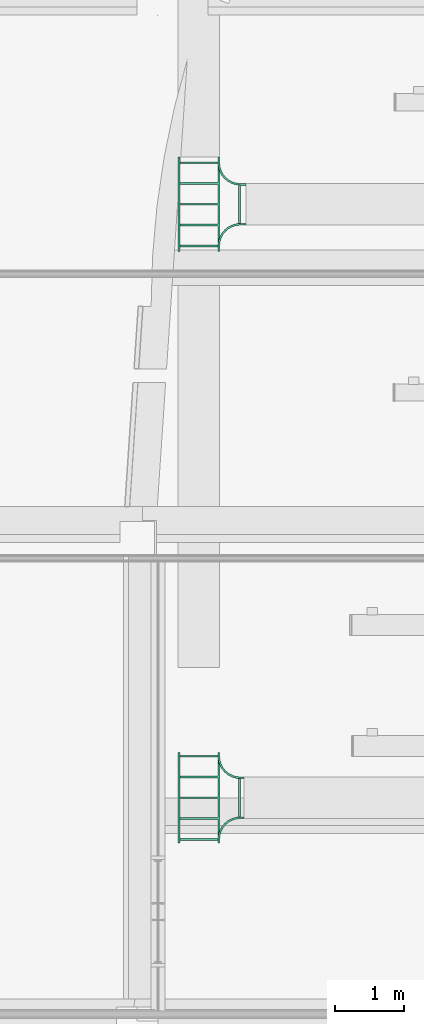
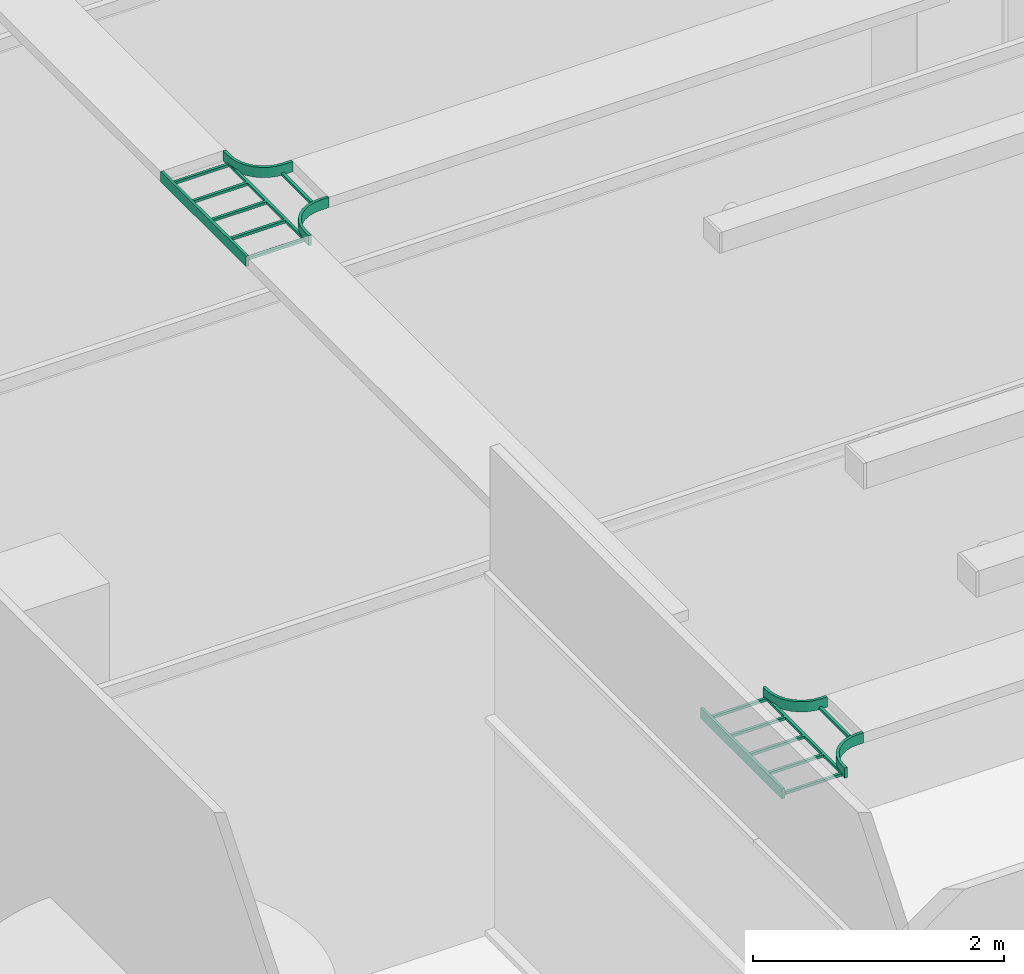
# One storey, part 93 of 100: 2 flow fittings.
"""IFC2X3 building model written with IfcOpenShell, lengths in millimetres."""

from ifc_helpers import new_model, entity, si_unit, converted_unit, derived_unit, direction, frame, origin, place, context, subcontext, project, spatial, faceted_brep, source, transform, mapped, material, material_list, type_object, type_shapes, element, save


model = new_model("IFC2X3")

# Units and contexts
model_context = context("Model", 3, precision=0.01, world=origin(), true_north=direction((6.123031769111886e-17, 1.0)))
body_context = subcontext(model_context, "Body", "Model", "MODEL_VIEW")
ifc_project = project(units=[si_unit("LENGTHUNIT", "METRE", prefix="MILLI"), si_unit("AREAUNIT", "SQUARE_METRE"), si_unit("VOLUMEUNIT", "CUBIC_METRE"), converted_unit("PLANEANGLEUNIT", "DEGREE", entity("IfcRatioMeasure", 0.017453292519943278), si_unit("PLANEANGLEUNIT", "RADIAN"), dimensions=[0, 0, 0, 0, 0, 0, 0]), si_unit("MASSUNIT", "GRAM", prefix="KILO"), derived_unit("MASSDENSITYUNIT", [(si_unit("MASSUNIT", "GRAM", prefix="KILO"), 1), (si_unit("LENGTHUNIT", "METRE"), -3)]), derived_unit("MOMENTOFINERTIAUNIT", [(si_unit("LENGTHUNIT", "METRE"), 4)]), si_unit("TIMEUNIT", "SECOND"), si_unit("FREQUENCYUNIT", "HERTZ"), si_unit("THERMODYNAMICTEMPERATUREUNIT", "DEGREE_CELSIUS"), derived_unit("THERMALTRANSMITTANCEUNIT", [(si_unit("MASSUNIT", "GRAM", prefix="KILO"), 1), (si_unit("THERMODYNAMICTEMPERATUREUNIT", "KELVIN"), -1), (si_unit("TIMEUNIT", "SECOND"), -3)]), derived_unit("VOLUMETRICFLOWRATEUNIT", [(si_unit("LENGTHUNIT", "METRE"), 3), (si_unit("TIMEUNIT", "SECOND"), -1)]), derived_unit("MASSFLOWRATEUNIT", [(si_unit("MASSUNIT", "GRAM", prefix="KILO"), 1), (si_unit("TIMEUNIT", "SECOND"), -1)]), derived_unit("ROTATIONALFREQUENCYUNIT", [(si_unit("TIMEUNIT", "SECOND"), -1)]), si_unit("ELECTRICCURRENTUNIT", "AMPERE"), si_unit("ELECTRICVOLTAGEUNIT", "VOLT"), si_unit("POWERUNIT", "WATT"), si_unit("FORCEUNIT", "NEWTON", prefix="KILO"), si_unit("ILLUMINANCEUNIT", "LUX"), si_unit("LUMINOUSFLUXUNIT", "LUMEN"), si_unit("LUMINOUSINTENSITYUNIT", "CANDELA"), derived_unit("USERDEFINED", [(si_unit("MASSUNIT", "GRAM", prefix="KILO"), -1), (si_unit("LENGTHUNIT", "METRE"), -2), (si_unit("TIMEUNIT", "SECOND"), 3), (si_unit("LUMINOUSFLUXUNIT", "LUMEN"), 1)]), derived_unit("SOUNDPOWERUNIT", [(si_unit("MASSUNIT", "GRAM", prefix="KILO"), 1), (si_unit("LENGTHUNIT", "METRE"), 2), (si_unit("TIMEUNIT", "SECOND"), -3)]), derived_unit("SOUNDPRESSUREUNIT", [(si_unit("MASSUNIT", "GRAM", prefix="KILO"), 1), (si_unit("LENGTHUNIT", "METRE"), -1), (si_unit("TIMEUNIT", "SECOND"), -2)]), derived_unit("LINEARVELOCITYUNIT", [(si_unit("LENGTHUNIT", "METRE"), 1), (si_unit("TIMEUNIT", "SECOND"), -1)]), si_unit("PRESSUREUNIT", "PASCAL"), derived_unit("USERDEFINED", [(si_unit("LENGTHUNIT", "METRE"), -2), (si_unit("MASSUNIT", "GRAM", prefix="KILO"), 1), (si_unit("TIMEUNIT", "SECOND"), -2)]), derived_unit("LINEARFORCEUNIT", [(si_unit("MASSUNIT", "GRAM", prefix="KILO"), 1), (si_unit("LENGTHUNIT", "METRE"), 1), (si_unit("TIMEUNIT", "SECOND"), -2), (si_unit("LENGTHUNIT", "METRE"), -1)]), derived_unit("PLANARFORCEUNIT", [(si_unit("MASSUNIT", "GRAM", prefix="KILO"), 1), (si_unit("LENGTHUNIT", "METRE"), 1), (si_unit("TIMEUNIT", "SECOND"), -2), (si_unit("LENGTHUNIT", "METRE"), -2)])], contexts=[model_context])

# Site, building, storey
site_placement = place(None, frame((-14167.972527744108, -657.2125860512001, 0.0)))
site = spatial("IfcSite", under=ifc_project, at=site_placement, Name="Default", CompositionType="ELEMENT")
building_placement = place(site_placement, origin())
building = spatial("IfcBuilding", under=site, at=building_placement, Name="Sample Building", CompositionType="ELEMENT")
storey_placement = place(building_placement, origin())
storey = spatial("IfcBuildingStorey", under=building, at=storey_placement, Name="지상 1층", CompositionType="ELEMENT", Elevation=0.0)

# Flow fittings
ifc_material = material(Name="<Unnamed>")
ifc_material_list_1 = material_list([ifc_material, ifc_material, ifc_material, ifc_material, ifc_material, ifc_material, ifc_material, ifc_material])
ifc_material_list_2 = material_list([ifc_material, ifc_material, ifc_material, ifc_material, ifc_material, ifc_material, ifc_material, ifc_material])
cable_carrier_fitting_type_1 = type_object("IfcCableCarrierFittingType", Name="M_래더 수평 티:300mm 반지름", PredefinedType="NOTDEFINED", material=ifc_material_list_2)
shared_shape_1 = source(origin(), body_context, "Body", "Brep", [
    faceted_brep([(274.60000001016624, -574.6000000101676, -24.600000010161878), (-274.60000001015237, -574.6000000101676, -24.600000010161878), (-274.60000001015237, -600.0, -24.600000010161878), (274.60000001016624, -600.0, -24.600000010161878), (274.60000001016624, -574.6000000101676, -50.0), (274.60000001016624, -600.0, -50.0), (-274.60000001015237, -600.0, -50.0), (-274.60000001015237, -574.6000000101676, -50.0)], [[[0, 1, 2, 3]], [[4, 5, 6, 7]], [[1, 0, 4, 7]], [[2, 1, 7, 6]], [[3, 2, 6, 5]], [[0, 3, 5, 4]]]),
    faceted_brep([(612.6999999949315, 274.60000001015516, -24.600000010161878), (587.3000000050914, 274.60000001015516, -24.600000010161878), (587.3000000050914, -274.6000000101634, -24.600000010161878), (612.6999999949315, -274.6000000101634, -24.600000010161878), (612.6999999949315, 274.60000001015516, -50.0), (612.6999999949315, -274.6000000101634, -50.0), (587.3000000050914, -274.6000000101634, -50.0), (587.3000000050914, 274.60000001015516, -50.0)], [[[0, 1, 2, 3]], [[4, 5, 6, 7]], [[1, 0, 4, 7]], [[2, 1, 7, 6]], [[3, 2, 6, 5]], [[0, 3, 5, 4]]]),
    faceted_brep([(312.69999999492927, 274.60000001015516, -24.600000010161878), (287.30000000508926, 274.6000000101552, -24.600000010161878), (287.30000000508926, -274.60000001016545, -24.600000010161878), (312.69999999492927, -274.6000000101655, -24.600000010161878), (312.69999999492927, 274.60000001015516, -50.0), (312.69999999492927, -274.6000000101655, -50.0), (287.30000000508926, -274.60000001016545, -50.0), (287.30000000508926, 274.6000000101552, -50.0)], [[[0, 1, 2, 3]], [[4, 5, 6, 7]], [[1, 0, 4, 7]], [[2, 1, 7, 6]], [[3, 2, 6, 5]], [[0, 3, 5, 4]]]),
    faceted_brep([(12.699999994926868, 274.60000001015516, -24.600000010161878), (-12.69999999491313, 274.6000000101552, -24.600000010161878), (-12.69999999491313, -274.60000001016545, -24.600000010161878), (12.699999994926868, -274.6000000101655, -24.600000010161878), (12.699999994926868, 274.60000001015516, -50.0), (12.699999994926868, -274.6000000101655, -50.0), (-12.69999999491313, -274.60000001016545, -50.0), (-12.69999999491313, 274.6000000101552, -50.0)], [[[0, 1, 2, 3]], [[4, 5, 6, 7]], [[1, 0, 4, 7]], [[2, 1, 7, 6]], [[3, 2, 6, 5]], [[0, 3, 5, 4]]]),
    faceted_brep([(-287.30000000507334, 274.60000001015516, -24.600000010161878), (-312.69999999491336, 274.6000000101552, -24.600000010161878), (-312.69999999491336, -274.60000001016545, -24.600000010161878), (-287.30000000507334, -274.6000000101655, -24.600000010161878), (-287.30000000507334, 274.60000001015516, -50.0), (-287.30000000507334, -274.6000000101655, -50.0), (-312.69999999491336, -274.60000001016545, -50.0), (-312.69999999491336, 274.6000000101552, -50.0)], [[[0, 1, 2, 3]], [[4, 5, 6, 7]], [[1, 0, 4, 7]], [[2, 1, 7, 6]], [[3, 2, 6, 5]], [[0, 3, 5, 4]]]),
    faceted_brep([(-587.3000000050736, 274.60000001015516, -24.600000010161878), (-612.6999999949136, 274.60000001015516, -24.600000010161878), (-612.6999999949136, -274.6000000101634, -24.600000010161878), (-587.3000000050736, -274.6000000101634, -24.600000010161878), (-587.3000000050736, 274.60000001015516, -50.0), (-587.3000000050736, -274.6000000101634, -50.0), (-612.6999999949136, -274.6000000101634, -50.0), (-612.6999999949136, 274.60000001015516, -50.0)], [[[0, 1, 2, 3]], [[4, 5, 6, 7]], [[1, 0, 4, 7]], [[2, 1, 7, 6]], [[3, 2, 6, 5]], [[0, 3, 5, 4]]]),
    faceted_brep([(680.0, 300.0, 50.0), (-680.0, 300.0, 50.0), (-680.0, 274.6000000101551, 50.0), (680.0, 274.6000000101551, 50.0), (680.0, 300.0, -50.0), (-680.0, 300.0, -50.0), (-680.0, 274.6000000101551, -50.0), (680.0, 274.6000000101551, -50.0)], [[[0, 1, 2, 3]], [[1, 0, 4, 5]], [[2, 1, 5, 6]], [[3, 2, 6, 7]], [[0, 3, 7, 4]], [[4, 7, 6, 5]]]),
    faceted_brep([(475.4748111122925, -299.36960013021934, 50.0), (419.21744618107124, -329.439788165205, 50.0), (369.9074534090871, -369.9074534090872, 50.0), (329.4397881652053, -419.2174461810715, 50.0), (299.36960013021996, -475.47481111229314, 50.0), (280.85246976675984, -536.5176092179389, 50.0), (274.60000001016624, -600.0, 50.0), (274.60000001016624, -680.0, 50.0), (300.0, -680.0, 50.0), (300.0, -600.0, 50.0), (305.76441587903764, -541.4729033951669, 50.0), (322.83614024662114, -485.1949702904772, 50.0), (350.5591163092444, -433.3289300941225, 50.0), (387.867965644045, -387.86796564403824, 50.0), (433.32893009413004, -350.5591163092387, 50.0), (485.19497029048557, -322.8361402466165, 50.0), (541.4729033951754, -305.76441587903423, 50.0), (600.0, -300.0, 50.0), (680.0, -300.0, 50.0), (680.0, -274.6000000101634, 50.0), (600.0, -274.60000001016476, 50.0), (536.5176092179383, -280.8524697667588, 50.0), (-600.0, -274.60000001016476, 50.0), (-680.0, -274.6000000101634, 50.0), (-680.0, -300.0, 50.0), (-600.0, -300.0, 50.0), (-541.4729033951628, -305.76441587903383, 50.0), (-485.1949702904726, -322.83614024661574, 50.0), (-433.328930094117, -350.55911630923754, 50.0), (-387.8679656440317, -387.8679656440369, 50.0), (-350.5591163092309, -433.32893009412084, 50.0), (-322.83614024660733, -485.1949702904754, 50.0), (-305.76441587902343, -541.472903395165, 50.0), (-300.0, -600.0, 50.0), (-300.0, -680.0, 50.0), (-274.60000001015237, -680.0, 50.0), (-274.60000001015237, -600.0, 50.0), (-280.8524697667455, -536.517609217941, 50.0), (-299.36960013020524, -475.47481111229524, 50.0), (-329.4397881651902, -419.21744618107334, 50.0), (-369.90745340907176, -369.90745340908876, 50.0), (-419.21744618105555, -329.4397881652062, 50.0), (-475.4748111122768, -299.3696001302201, 50.0), (-536.5176092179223, -280.8524697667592, 50.0), (-274.60000001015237, -680.0, -50.0), (-300.0, -680.0, -50.0), (-300.0, -600.0, -50.0), (-305.76441587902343, -541.472903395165, -50.0), (-322.83614024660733, -485.1949702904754, -50.0), (-350.5591163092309, -433.32893009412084, -50.0), (-387.8679656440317, -387.8679656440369, -50.0), (-433.328930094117, -350.55911630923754, -50.0), (-485.1949702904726, -322.83614024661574, -50.0), (-541.4729033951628, -305.76441587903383, -50.0), (-600.0, -300.0, -50.0), (-680.0, -300.0, -50.0), (-680.0, -274.6000000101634, -50.0), (680.0, -274.6000000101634, -50.0), (680.0, -300.0, -50.0), (600.0, -300.0, -50.0), (541.4729033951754, -305.76441587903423, -50.0), (485.19497029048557, -322.8361402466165, -50.0), (433.32893009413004, -350.5591163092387, -50.0), (387.867965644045, -387.86796564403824, -50.0), (350.5591163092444, -433.3289300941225, -50.0), (322.83614024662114, -485.1949702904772, -50.0), (305.76441587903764, -541.4729033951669, -50.0), (300.0, -600.0, -50.0), (300.0, -680.0, -50.0), (274.60000001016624, -680.0, -50.0), (274.60000001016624, -600.0, -50.0), (280.79935590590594, -536.7852168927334, -50.0), (299.16119266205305, -475.9791469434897, -50.0), (328.9858644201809, -419.898644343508, -50.0), (369.13695081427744, -370.68054484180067, -50.0), (418.08456961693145, -330.2001923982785, -50.0), (473.96365606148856, -300.0, -50.0), (-473.9636560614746, -300.0, -50.0), (-418.08456961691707, -330.20019239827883, -50.0), (-369.13695081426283, -370.6805448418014, -50.0), (-328.9858644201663, -419.89864434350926, -50.0), (-299.1611926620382, -475.97914694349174, -50.0), (-280.79935590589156, -536.7852168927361, -50.0), (-274.60000001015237, -600.0, -50.0), (-473.9636560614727, -300.0, -24.600000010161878), (-514.7263695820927, -285.97202680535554, -24.600000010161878), (-556.9857144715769, -277.45553603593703, -24.600000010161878), (-600.0, -274.60000001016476, -24.600000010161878), (600.0, -274.60000001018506, -24.60000001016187), (-600.0, -300.0, -24.60000001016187), (600.0, -300.0, -24.600000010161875), (473.96365606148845, -300.0, -24.600000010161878), (556.9857144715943, -277.4555360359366, -24.600000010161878), (514.7263695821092, -285.97202680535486, -24.600000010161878)], [[[0, 1, 2, 3, 4, 5, 6, 7, 8, 9, 10, 11, 12, 13, 14, 15, 16, 17, 18, 19, 20, 21]], [[22, 23, 24, 25, 26, 27, 28, 29, 30, 31, 32, 33, 34, 35, 36, 37, 38, 39, 40, 41, 42, 43]], [[44, 45, 46, 47, 48, 49, 50, 51, 52, 53, 54, 55, 56, 57, 58, 59, 60, 61, 62, 63, 64, 65, 66, 67, 68, 69, 70, 71, 72, 73, 74, 75, 76, 77, 78, 79, 80, 81, 82, 83]], [[34, 33, 46, 45]], [[35, 34, 45, 44]], [[8, 7, 69, 68]], [[36, 35, 44, 83]], [[36, 83, 82]], [[80, 79, 39]], [[37, 82, 81]], [[38, 81, 80]], [[36, 82, 37]], [[37, 81, 38]], [[40, 39, 79]], [[80, 39, 38]], [[79, 78, 40]], [[84, 78, 77]], [[43, 85, 86]], [[22, 86, 87]], [[41, 84, 42]], [[84, 41, 78]], [[85, 42, 84]], [[85, 43, 42]], [[86, 22, 43]], [[78, 41, 40]], [[20, 19, 57, 56, 23, 22, 87, 88]], [[24, 23, 56, 55]], [[25, 24, 55, 54, 89]], [[18, 17, 90, 59, 58]], [[91, 84, 77, 76]], [[26, 25, 89, 54, 53]], [[53, 52, 27, 26]], [[27, 52, 51, 28]], [[51, 50, 29, 28]], [[30, 29, 50, 49]], [[32, 31, 48, 47]], [[30, 49, 48, 31]], [[32, 47, 46, 33]], [[10, 9, 67, 66]], [[65, 11, 10, 66]], [[11, 65, 64, 12]], [[13, 12, 64, 63]], [[14, 13, 63, 62]], [[16, 15, 61, 60]], [[14, 62, 61, 15]], [[16, 60, 59, 90, 17]], [[19, 18, 58, 57]], [[20, 88, 92]], [[91, 76, 75]], [[21, 92, 93]], [[20, 92, 21]], [[0, 91, 1]], [[0, 21, 93]], [[1, 91, 75]], [[91, 0, 93]], [[75, 2, 1]], [[3, 74, 73]], [[5, 72, 71]], [[73, 72, 4]], [[6, 71, 70]], [[2, 74, 3]], [[4, 3, 73]], [[72, 5, 4]], [[71, 6, 5]], [[74, 2, 75]], [[7, 6, 70, 69]], [[9, 8, 68, 67]], [[92, 88, 87, 86, 85, 84, 91, 93]]]),
])
type_shapes(cable_carrier_fitting_type_1, [shared_shape_1])
flow_fitting_1_placement = place(storey_placement, frame((19055.72975867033, 24628.928286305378, 3780.0), z_axis=(0.0, 0.0, 1.0), x_axis=(0.0, 1.0, 0.0)))
element("IfcFlowFitting", 1, at=flow_fitting_1_placement, inside=storey, type_object=cable_carrier_fitting_type_1, material=ifc_material_list_1, Name="M_래더 수평 티:300mm 반지름", ObjectType="M_래더 수평 티:300mm 반지름", context=body_context, shape_type="MappedRepresentation", body=[
    mapped(shared_shape_1, transform((0.0, 0.0, 0.0), scale=1.0)),
])
ifc_material_list_3 = material_list([ifc_material, ifc_material, ifc_material, ifc_material, ifc_material, ifc_material, ifc_material, ifc_material])
ifc_material_list_4 = material_list([ifc_material, ifc_material, ifc_material, ifc_material, ifc_material, ifc_material, ifc_material, ifc_material])
cable_carrier_fitting_type_2 = type_object("IfcCableCarrierFittingType", Name="M_래더 수평 티:300mm 반지름", PredefinedType="NOTDEFINED", material=ifc_material_list_4)
shared_shape_2 = source(origin(), body_context, "Body", "Brep", [
    faceted_brep([(274.60000001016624, -574.6000000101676, -24.600000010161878), (-274.60000001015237, -574.6000000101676, -24.600000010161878), (-274.60000001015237, -600.0, -24.600000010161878), (274.60000001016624, -600.0, -24.600000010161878), (274.60000001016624, -574.6000000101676, -50.0), (274.60000001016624, -600.0, -50.0), (-274.60000001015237, -600.0, -50.0), (-274.60000001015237, -574.6000000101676, -50.0)], [[[0, 1, 2, 3]], [[4, 5, 6, 7]], [[1, 0, 4, 7]], [[2, 1, 7, 6]], [[3, 2, 6, 5]], [[0, 3, 5, 4]]]),
    faceted_brep([(612.6999999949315, 274.60000001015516, -24.600000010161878), (587.3000000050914, 274.60000001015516, -24.600000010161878), (587.3000000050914, -274.6000000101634, -24.600000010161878), (612.6999999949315, -274.6000000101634, -24.600000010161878), (612.6999999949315, 274.60000001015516, -50.0), (612.6999999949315, -274.6000000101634, -50.0), (587.3000000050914, -274.6000000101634, -50.0), (587.3000000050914, 274.60000001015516, -50.0)], [[[0, 1, 2, 3]], [[4, 5, 6, 7]], [[1, 0, 4, 7]], [[2, 1, 7, 6]], [[3, 2, 6, 5]], [[0, 3, 5, 4]]]),
    faceted_brep([(312.69999999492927, 274.60000001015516, -24.600000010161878), (287.30000000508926, 274.6000000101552, -24.600000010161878), (287.30000000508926, -274.60000001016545, -24.600000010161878), (312.69999999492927, -274.6000000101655, -24.600000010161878), (312.69999999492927, 274.60000001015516, -50.0), (312.69999999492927, -274.6000000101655, -50.0), (287.30000000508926, -274.60000001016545, -50.0), (287.30000000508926, 274.6000000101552, -50.0)], [[[0, 1, 2, 3]], [[4, 5, 6, 7]], [[1, 0, 4, 7]], [[2, 1, 7, 6]], [[3, 2, 6, 5]], [[0, 3, 5, 4]]]),
    faceted_brep([(12.699999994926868, 274.60000001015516, -24.600000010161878), (-12.69999999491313, 274.6000000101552, -24.600000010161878), (-12.69999999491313, -274.60000001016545, -24.600000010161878), (12.699999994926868, -274.6000000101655, -24.600000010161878), (12.699999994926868, 274.60000001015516, -50.0), (12.699999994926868, -274.6000000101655, -50.0), (-12.69999999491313, -274.60000001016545, -50.0), (-12.69999999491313, 274.6000000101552, -50.0)], [[[0, 1, 2, 3]], [[4, 5, 6, 7]], [[1, 0, 4, 7]], [[2, 1, 7, 6]], [[3, 2, 6, 5]], [[0, 3, 5, 4]]]),
    faceted_brep([(-287.30000000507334, 274.60000001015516, -24.600000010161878), (-312.69999999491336, 274.6000000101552, -24.600000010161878), (-312.69999999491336, -274.60000001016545, -24.600000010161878), (-287.30000000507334, -274.6000000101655, -24.600000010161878), (-287.30000000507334, 274.60000001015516, -50.0), (-287.30000000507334, -274.6000000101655, -50.0), (-312.69999999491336, -274.60000001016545, -50.0), (-312.69999999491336, 274.6000000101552, -50.0)], [[[0, 1, 2, 3]], [[4, 5, 6, 7]], [[1, 0, 4, 7]], [[2, 1, 7, 6]], [[3, 2, 6, 5]], [[0, 3, 5, 4]]]),
    faceted_brep([(-587.3000000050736, 274.60000001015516, -24.600000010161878), (-612.6999999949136, 274.60000001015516, -24.600000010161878), (-612.6999999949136, -274.6000000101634, -24.600000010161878), (-587.3000000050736, -274.6000000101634, -24.600000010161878), (-587.3000000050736, 274.60000001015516, -50.0), (-587.3000000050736, -274.6000000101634, -50.0), (-612.6999999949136, -274.6000000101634, -50.0), (-612.6999999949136, 274.60000001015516, -50.0)], [[[0, 1, 2, 3]], [[4, 5, 6, 7]], [[1, 0, 4, 7]], [[2, 1, 7, 6]], [[3, 2, 6, 5]], [[0, 3, 5, 4]]]),
    faceted_brep([(650.0, 300.0, 50.0), (-650.0, 300.0, 50.0), (-650.0, 274.6000000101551, 50.0), (650.0, 274.6000000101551, 50.0), (650.0, 300.0, -50.0), (-650.0, 300.0, -50.0), (-650.0, 274.6000000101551, -50.0), (650.0, 274.6000000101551, -50.0)], [[[0, 1, 2, 3]], [[1, 0, 4, 5]], [[2, 1, 5, 6]], [[3, 2, 6, 7]], [[0, 3, 7, 4]], [[4, 7, 6, 5]]]),
    faceted_brep([(475.4748111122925, -299.3696001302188, 50.0), (419.21744618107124, -329.43978816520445, 50.0), (369.9074534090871, -369.9074534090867, 50.0), (329.4397881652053, -419.21744618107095, 50.0), (299.36960013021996, -475.47481111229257, 50.0), (280.85246976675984, -536.5176092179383, 50.0), (274.60000001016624, -600.0, 50.0), (274.60000001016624, -650.0, 50.0), (300.0, -650.0, 50.0), (300.0, -600.0, 50.0), (305.7644158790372, -541.4729033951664, 50.0), (322.8361402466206, -485.1949702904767, 50.0), (350.559116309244, -433.3289300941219, 50.0), (387.86796564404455, -387.86796564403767, 50.0), (433.32893009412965, -350.5591163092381, 50.0), (485.194970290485, -322.8361402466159, 50.0), (541.4729033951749, -305.76441587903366, 50.0), (600.0, -300.0, 50.0), (650.0, -300.0, 50.0), (650.0, -274.6000000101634, 50.0), (600.0, -274.60000001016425, 50.0), (536.5176092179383, -280.85246976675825, 50.0), (-600.0, -274.60000001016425, 50.0), (-650.0, -274.6000000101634, 50.0), (-650.0, -300.0, 50.0), (-600.0, -300.0, 50.0), (-541.4729033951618, -305.76441587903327, 50.0), (-485.19497029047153, -322.8361402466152, 50.0), (-433.32893009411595, -350.55911630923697, 50.0), (-387.8679656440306, -387.8679656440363, 50.0), (-350.5591163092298, -433.3289300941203, 50.0), (-322.83614024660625, -485.1949702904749, 50.0), (-305.76441587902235, -541.4729033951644, 50.0), (-300.0, -600.0, 50.0), (-300.0, -650.0, 50.0), (-274.60000001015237, -650.0, 50.0), (-274.60000001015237, -600.0, 50.0), (-280.8524697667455, -536.5176092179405, 50.0), (-299.36960013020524, -475.4748111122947, 50.0), (-329.4397881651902, -419.21744618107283, 50.0), (-369.90745340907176, -369.9074534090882, 50.0), (-419.21744618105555, -329.4397881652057, 50.0), (-475.4748111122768, -299.36960013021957, 50.0), (-536.5176092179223, -280.85246976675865, 50.0), (-274.60000001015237, -650.0, -50.0), (-300.0, -650.0, -50.0), (-300.0, -600.0, -50.0), (-305.76441587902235, -541.4729033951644, -50.0), (-322.83614024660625, -485.1949702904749, -50.0), (-350.5591163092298, -433.3289300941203, -50.0), (-387.8679656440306, -387.8679656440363, -50.0), (-433.32893009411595, -350.55911630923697, -50.0), (-485.19497029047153, -322.8361402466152, -50.0), (-541.4729033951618, -305.76441587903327, -50.0), (-600.0, -300.0, -50.0), (-650.0, -300.0, -50.0), (-650.0, -274.6000000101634, -50.0), (650.0, -274.6000000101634, -50.0), (650.0, -300.0, -50.0), (600.0, -300.0, -50.0), (541.4729033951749, -305.76441587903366, -50.0), (485.194970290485, -322.8361402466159, -50.0), (433.32893009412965, -350.5591163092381, -50.0), (387.86796564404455, -387.86796564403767, -50.0), (350.559116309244, -433.3289300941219, -50.0), (322.8361402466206, -485.1949702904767, -50.0), (305.7644158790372, -541.4729033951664, -50.0), (300.0, -600.0, -50.0), (300.0, -650.0, -50.0), (274.60000001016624, -650.0, -50.0), (274.60000001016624, -600.0, -50.0), (280.7993559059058, -536.7852168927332, -50.0), (299.16119266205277, -475.97914694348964, -50.0), (328.9858644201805, -419.89864434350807, -50.0), (369.1369508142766, -370.6805448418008, -50.0), (418.08456961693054, -330.2001923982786, -50.0), (473.96365606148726, -300.0, -50.0), (-473.96365606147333, -300.0, -50.0), (-418.08456961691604, -330.20019239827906, -50.0), (-369.13695081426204, -370.68054484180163, -50.0), (-328.98586442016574, -419.8986443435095, -50.0), (-299.16119266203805, -475.97914694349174, -50.0), (-280.79935590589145, -536.7852168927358, -50.0), (-274.60000001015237, -600.0, -50.0), (-473.9636560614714, -300.0, -24.600000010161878), (-514.7263695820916, -285.97202680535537, -24.600000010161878), (-556.9857144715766, -277.45553603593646, -24.600000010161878), (-600.0, -274.60000001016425, -24.600000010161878), (600.0, -274.60000001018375, -24.60000001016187), (-600.0, -300.0, -24.60000001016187), (600.0, -300.0, -24.600000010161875), (473.96365606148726, -300.0, -24.600000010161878), (556.9857144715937, -277.45553603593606, -24.600000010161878), (514.7263695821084, -285.9720268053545, -24.600000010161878)], [[[0, 1, 2, 3, 4, 5, 6, 7, 8, 9, 10, 11, 12, 13, 14, 15, 16, 17, 18, 19, 20, 21]], [[22, 23, 24, 25, 26, 27, 28, 29, 30, 31, 32, 33, 34, 35, 36, 37, 38, 39, 40, 41, 42, 43]], [[44, 45, 46, 47, 48, 49, 50, 51, 52, 53, 54, 55, 56, 57, 58, 59, 60, 61, 62, 63, 64, 65, 66, 67, 68, 69, 70, 71, 72, 73, 74, 75, 76, 77, 78, 79, 80, 81, 82, 83]], [[34, 33, 46, 45]], [[35, 34, 45, 44]], [[8, 7, 69, 68]], [[36, 35, 44, 83]], [[36, 83, 82]], [[80, 79, 39]], [[37, 82, 81]], [[38, 81, 80]], [[36, 82, 37]], [[37, 81, 38]], [[40, 39, 79]], [[80, 39, 38]], [[79, 78, 40]], [[84, 78, 77]], [[43, 85, 86]], [[22, 86, 87]], [[41, 84, 42]], [[84, 41, 78]], [[85, 42, 84]], [[85, 43, 42]], [[86, 22, 43]], [[78, 41, 40]], [[20, 19, 57, 56, 23, 22, 87, 88]], [[24, 23, 56, 55]], [[25, 24, 55, 54, 89]], [[18, 17, 90, 59, 58]], [[91, 84, 77, 76]], [[26, 25, 89, 54, 53]], [[53, 52, 27, 26]], [[27, 52, 51, 28]], [[51, 50, 29, 28]], [[30, 29, 50, 49]], [[32, 31, 48, 47]], [[30, 49, 48, 31]], [[32, 47, 46, 33]], [[10, 9, 67, 66]], [[65, 11, 10, 66]], [[11, 65, 64, 12]], [[13, 12, 64, 63]], [[14, 13, 63, 62]], [[16, 15, 61, 60]], [[14, 62, 61, 15]], [[16, 60, 59, 90, 17]], [[19, 18, 58, 57]], [[20, 88, 92]], [[91, 76, 75]], [[21, 92, 93]], [[20, 92, 21]], [[0, 91, 1]], [[0, 21, 93]], [[1, 91, 75]], [[91, 0, 93]], [[75, 2, 1]], [[3, 74, 73]], [[5, 72, 71]], [[73, 72, 4]], [[6, 71, 70]], [[2, 74, 3]], [[4, 3, 73]], [[72, 5, 4]], [[71, 6, 5]], [[74, 2, 75]], [[7, 6, 70, 69]], [[9, 8, 68, 67]], [[92, 88, 87, 86, 85, 84, 91, 93]]]),
])
type_shapes(cable_carrier_fitting_type_2, [shared_shape_2])
flow_fitting_2_placement = place(storey_placement, frame((19055.7297586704, 16074.10371473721, 3780.0), z_axis=(0.0, 0.0, 1.0), x_axis=(0.0, 1.0, 0.0)))
element("IfcFlowFitting", 2, at=flow_fitting_2_placement, inside=storey, type_object=cable_carrier_fitting_type_2, material=ifc_material_list_3, Name="M_래더 수평 티:300mm 반지름", ObjectType="M_래더 수평 티:300mm 반지름", context=body_context, shape_type="MappedRepresentation", body=[
    mapped(shared_shape_2, transform((0.0, 0.0, 0.0), scale=1.0)),
])

save(model, "model.ifc")
